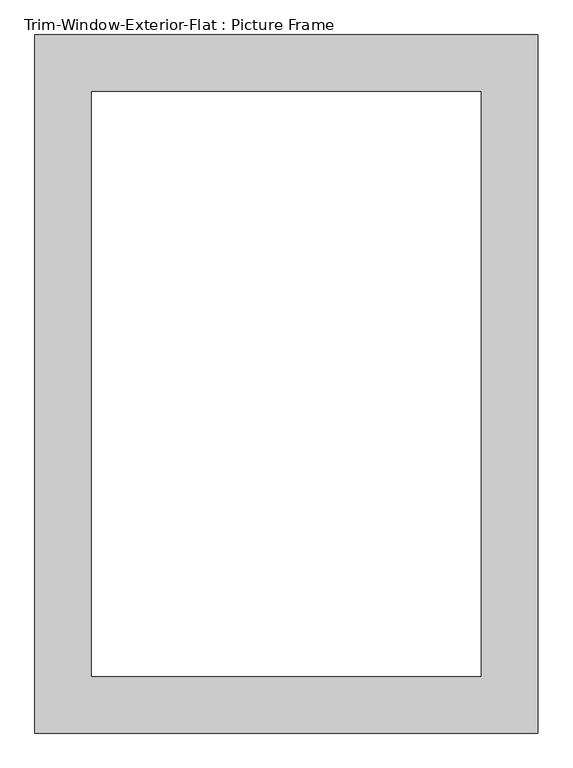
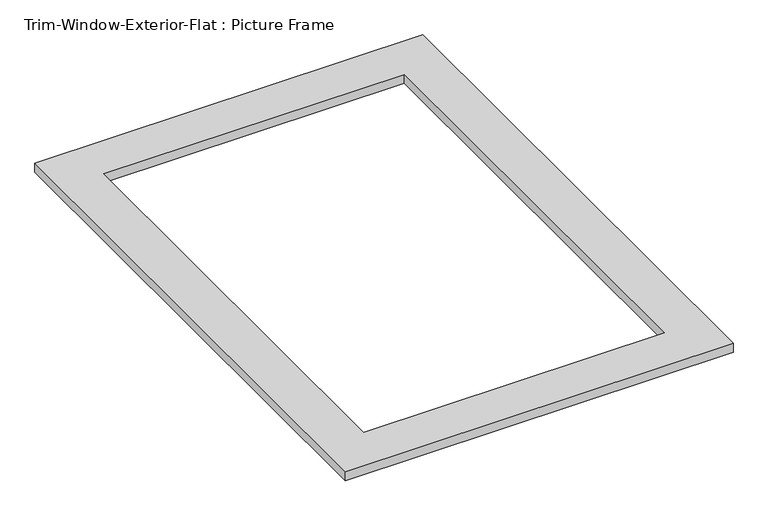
"""IFC4 building model written with IfcOpenShell, lengths in millimetres: proxy geometry, Trim-Window-Exterior-Flat : Picture Frame."""

from ifc_helpers import new_model, si_unit, origin, origin_with_axes, place, context, project, spatial, polyline, outline, extrude, source, transform, mapped, element, save


def trim_window_exterior_flat_picture_frame_fb448c29(model_context):
    return source(origin(), model_context, "Body", "SweptSolid", [
        extrude(outline(polyline([(393.7, 88.9), (393.7, -1003.3), (-393.7, -1003.3), (-393.7, 88.9), (393.7, 88.9)]), holes=[polyline([(304.8, 0.0), (-304.8, 0.0), (-304.8, -914.4), (304.8, -914.4), (304.8, 0.0)])]), origin_with_axes(), (0.0, 0.0, 1.0), 19.05),
    ])


if __name__ == "__main__":
    model = new_model("IFC4")
    model_context = context("Model", 3, world=origin())
    ifc_project = project(units=[si_unit("LENGTHUNIT", "METRE", prefix="MILLI")], contexts=[model_context])
    site = spatial("IfcSite", under=ifc_project)
    building = spatial("IfcBuilding", under=site)
    placement = place(None, origin())
    trim_window_exterior_flat_picture_frame_shape = trim_window_exterior_flat_picture_frame_fb448c29(model_context)
    element("IfcBuildingElementProxy", 1, Name="Trim-Window-Exterior-Flat : Picture Frame", ObjectType="Trim-Window-Exterior-Flat : Picture Frame", at=placement, inside=building, context=model_context, shape_type="MappedRepresentation", body=[
        mapped(trim_window_exterior_flat_picture_frame_shape, transform((0.0, 0.0, 0.0), x_axis=(1.0, 0.0, 0.0), y_axis=(0.0, 1.0, 0.0), z_axis=(0.0, 0.0, 1.0))),
    ])
    save(model, "model.ifc")
